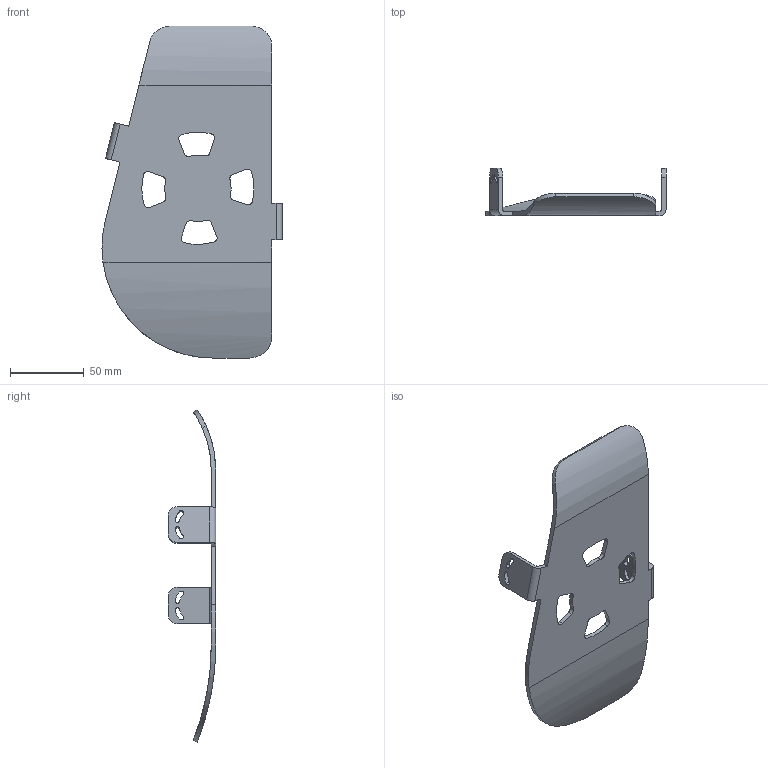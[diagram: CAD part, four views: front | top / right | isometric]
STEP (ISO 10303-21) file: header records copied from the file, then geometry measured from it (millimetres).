
FILE_DESCRIPTION(/* description */ (''),/* implementation_level */ '2;1');
FILE_NAME(/* name */ 'H:\My Design\inventor 9999999\Sheet metal-sample.stp',/* time_stamp */ '2024-03-17T11:49:37+03:00',/* author */ ('hp'),/* organization */ (''),/* preprocessor_version */ 'ST-DEVELOPER v18.1',/* originating_system */ 'Autodesk Inventor 2022',/* authorisation */ '');
FILE_SCHEMA (('AUTOMOTIVE_DESIGN { 1 0 10303 214 3 1 1 }'));
Length unit declared in the file: millimetre
Products named in the file (1): Sheet metal-sample
Bounding box: 122 x 32 x 225 mm (x, y, z)
Volume: 68175.6 mm3; surface area: 48755.2 mm2
Topology: 1 solids, 1 shells, 82 faces, 240 edges, 160 vertices
Faces by surface type: cylinder 56, plane 26
Entity records: 2961 total; most frequent: CARTESIAN_POINT 608, DIRECTION 503, ORIENTED_EDGE 480, EDGE_CURVE 240, AXIS2_PLACEMENT_3D 188, VERTEX_POINT 160, LINE 127, VECTOR 127
